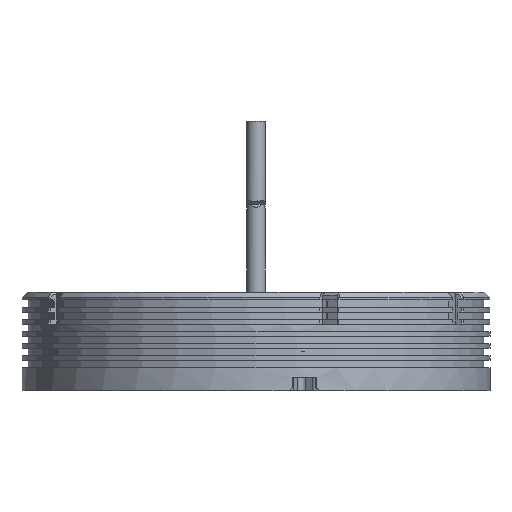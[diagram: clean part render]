
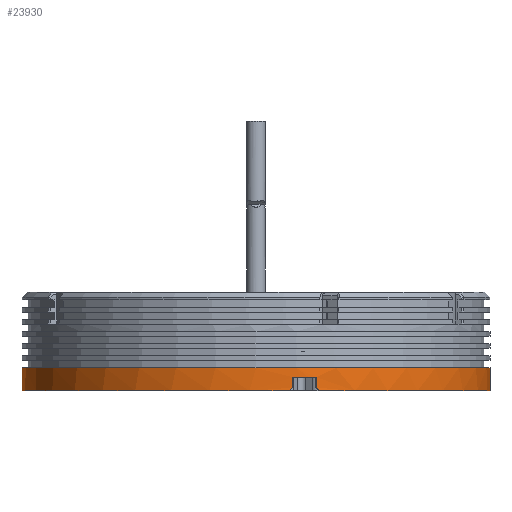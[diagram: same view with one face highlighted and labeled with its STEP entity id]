
A CAD part, front view. The second image highlights one B-rep face of the part: STEP entity #23930.
In plain terms, the highlighted cylindrical face has radius 68 mm (diameter 136 mm), a partial arc.
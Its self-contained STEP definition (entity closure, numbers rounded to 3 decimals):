
#113 = AXIS2_PLACEMENT_3D ( 'NONE', #1324, #8015, #800 ) ;
#361 = VECTOR ( 'NONE', #16664, 1000. ) ;
#634 = AXIS2_PLACEMENT_3D ( 'NONE', #10155, #5451, #1038 ) ;
#800 = DIRECTION ( 'NONE',  ( -1., 0., 0. ) ) ;
#1018 = ORIENTED_EDGE ( 'NONE', *, *, #20800, .T. ) ;
#1038 = DIRECTION ( 'NONE',  ( -1., 0., 0. ) ) ;
#1146 = CARTESIAN_POINT ( 'NONE',  ( 10.7, -67.153, 1. ) ) ;
#1324 = CARTESIAN_POINT ( 'NONE',  ( 0., 0., 6.7 ) ) ;
#1443 = LINE ( 'NONE', #18933, #361 ) ;
#1599 = CARTESIAN_POINT ( 'NONE',  ( 9.712, -67.303, 0. ) ) ;
#1802 = ORIENTED_EDGE ( 'NONE', *, *, #23161, .T. ) ;
#2140 = CARTESIAN_POINT ( 'NONE',  ( 9.712, -67.303, 0. ) ) ;
#2278 = CARTESIAN_POINT ( 'NONE',  ( 17.538, -65.699, 1. ) ) ;
#2831 = DIRECTION ( 'NONE',  ( -1., 0., 0. ) ) ;
#3021 = ORIENTED_EDGE ( 'NONE', *, *, #26055, .T. ) ;
#3086 = EDGE_LOOP ( 'NONE', ( #8550, #4437, #1018, #3888, #3021, #5428, #6607, #16175, #1802, #17868 ) ) ;
#3717 = CARTESIAN_POINT ( 'NONE',  ( 17.538, -65.699, 1. ) ) ;
#3888 = ORIENTED_EDGE ( 'NONE', *, *, #7565, .T. ) ;
#4308 = VECTOR ( 'NONE', #18925, 1000. ) ;
#4349 = AXIS2_PLACEMENT_3D ( 'NONE', #9565, #24786, #16385 ) ;
#4437 = ORIENTED_EDGE ( 'NONE', *, *, #16954, .T. ) ;
#5239 = CARTESIAN_POINT ( 'NONE',  ( -68., 0., 28.7 ) ) ;
#5428 = ORIENTED_EDGE ( 'NONE', *, *, #10069, .T. ) ;
#5451 = DIRECTION ( 'NONE',  ( 0., 0., 1. ) ) ;
#5783 = CARTESIAN_POINT ( 'NONE',  ( 68., 0., 0. ) ) ;
#6321 = EDGE_CURVE ( 'NONE', #23763, #6738, #7970, .T. ) ;
#6563 = CARTESIAN_POINT ( 'NONE',  ( 10.371, -67.205, 0.667 ) ) ;
#6607 = ORIENTED_EDGE ( 'NONE', *, *, #6321, .F. ) ;
#6738 = VERTEX_POINT ( 'NONE', #24755 ) ;
#7565 = EDGE_CURVE ( 'NONE', #26201, #19122, #27923, .T. ) ;
#7970 = CIRCLE ( 'NONE', #4349, 68. ) ;
#8015 = DIRECTION ( 'NONE',  ( 0., 0., -1. ) ) ;
#8048 = DIRECTION ( 'NONE',  ( 0., 0., 1. ) ) ;
#8392 = EDGE_CURVE ( 'NONE', #13112, #9982, #8698, .T. ) ;
#8550 = ORIENTED_EDGE ( 'NONE', *, *, #25885, .F. ) ;
#8698 = CIRCLE ( 'NONE', #18670, 68. ) ;
#9565 = CARTESIAN_POINT ( 'NONE',  ( 0., 0., 4. ) ) ;
#9982 = VERTEX_POINT ( 'NONE', #5783 ) ;
#10069 = EDGE_CURVE ( 'NONE', #13672, #6738, #18866, .T. ) ;
#10155 = CARTESIAN_POINT ( 'NONE',  ( 0., 0., 0. ) ) ;
#10264 = CARTESIAN_POINT ( 'NONE',  ( 17.538, -65.699, 28.7 ) ) ;
#11033 = CARTESIAN_POINT ( 'NONE',  ( 18.503, -65.434, 0. ) ) ;
#11698 =( BOUNDED_CURVE ( )  B_SPLINE_CURVE ( 3, ( #3717, #25618, #25475, #18923 ),
 .UNSPECIFIED., .F., .T. ) 
 B_SPLINE_CURVE_WITH_KNOTS ( ( 4, 4 ),
 ( 4.712, 4.727 ),
 .UNSPECIFIED. ) 
 CURVE ( )  GEOMETRIC_REPRESENTATION_ITEM ( )  RATIONAL_B_SPLINE_CURVE ( ( 1., 1., 1., 1. ) ) 
 REPRESENTATION_ITEM ( '' )  );
#12156 = AXIS2_PLACEMENT_3D ( 'NONE', #16293, #27535, #20701 ) ;
#12342 = VECTOR ( 'NONE', #8048, 1000. ) ;
#13112 = VERTEX_POINT ( 'NONE', #11033 ) ;
#13511 = DIRECTION ( 'NONE',  ( 0., 0., 1. ) ) ;
#13672 = VERTEX_POINT ( 'NONE', #1146 ) ;
#13800 = EDGE_CURVE ( 'NONE', #23763, #26008, #16794, .T. ) ;
#14379 = CARTESIAN_POINT ( 'NONE',  ( 68., 0., 6.7 ) ) ;
#16175 = ORIENTED_EDGE ( 'NONE', *, *, #13800, .T. ) ;
#16293 = CARTESIAN_POINT ( 'NONE',  ( 0., 0., 28.7 ) ) ;
#16385 = DIRECTION ( 'NONE',  ( -1., 0., 0. ) ) ;
#16472 = CIRCLE ( 'NONE', #113, 68. ) ;
#16664 = DIRECTION ( 'NONE',  ( 0., 0., -1. ) ) ;
#16794 = LINE ( 'NONE', #10264, #4308 ) ;
#16867 = VECTOR ( 'NONE', #26866, 1000. ) ;
#16954 = EDGE_CURVE ( 'NONE', #20583, #27852, #16472, .T. ) ;
#17774 = CARTESIAN_POINT ( 'NONE',  ( 0., 0., 0. ) ) ;
#17868 = ORIENTED_EDGE ( 'NONE', *, *, #8392, .T. ) ;
#18174 = LINE ( 'NONE', #5239, #16867 ) ;
#18427 = CARTESIAN_POINT ( 'NONE',  ( 17.538, -65.699, 4. ) ) ;
#18670 = AXIS2_PLACEMENT_3D ( 'NONE', #17774, #13511, #2831 ) ;
#18866 = LINE ( 'NONE', #27547, #12342 ) ;
#18923 = CARTESIAN_POINT ( 'NONE',  ( 18.503, -65.434, 0. ) ) ;
#18925 = DIRECTION ( 'NONE',  ( 0., 0., -1. ) ) ;
#18933 = CARTESIAN_POINT ( 'NONE',  ( 68., 0., 28.7 ) ) ;
#19122 = VERTEX_POINT ( 'NONE', #1599 ) ;
#20583 = VERTEX_POINT ( 'NONE', #14379 ) ;
#20701 = DIRECTION ( 'NONE',  ( -1., 0., 0. ) ) ;
#20800 = EDGE_CURVE ( 'NONE', #27852, #26201, #18174, .T. ) ;
#21133 = FACE_OUTER_BOUND ( 'NONE', #3086, .T. ) ;
#21765 = CARTESIAN_POINT ( 'NONE',  ( 10.042, -67.255, 0.333 ) ) ;
#22185 = CARTESIAN_POINT ( 'NONE',  ( 10.7, -67.153, 1. ) ) ;
#22426 =( BOUNDED_CURVE ( )  B_SPLINE_CURVE ( 3, ( #2140, #21765, #6563, #22185 ),
 .UNSPECIFIED., .F., .T. ) 
 B_SPLINE_CURVE_WITH_KNOTS ( ( 4, 4 ),
 ( 1.556, 1.571 ),
 .UNSPECIFIED. ) 
 CURVE ( )  GEOMETRIC_REPRESENTATION_ITEM ( )  RATIONAL_B_SPLINE_CURVE ( ( 1., 1., 1., 1. ) ) 
 REPRESENTATION_ITEM ( '' )  );
#23161 = EDGE_CURVE ( 'NONE', #26008, #13112, #11698, .T. ) ;
#23445 = CARTESIAN_POINT ( 'NONE',  ( -68., 0., 6.7 ) ) ;
#23763 = VERTEX_POINT ( 'NONE', #18427 ) ;
#23930 = ADVANCED_FACE ( 'NONE', ( #21133 ), #27403, .T. ) ;
#24755 = CARTESIAN_POINT ( 'NONE',  ( 10.7, -67.153, 4. ) ) ;
#24786 = DIRECTION ( 'NONE',  ( 0., 0., -1. ) ) ;
#25475 = CARTESIAN_POINT ( 'NONE',  ( 18.182, -65.525, 0.333 ) ) ;
#25618 = CARTESIAN_POINT ( 'NONE',  ( 17.86, -65.613, 0.667 ) ) ;
#25885 = EDGE_CURVE ( 'NONE', #20583, #9982, #1443, .T. ) ;
#26008 = VERTEX_POINT ( 'NONE', #2278 ) ;
#26055 = EDGE_CURVE ( 'NONE', #19122, #13672, #22426, .T. ) ;
#26201 = VERTEX_POINT ( 'NONE', #27022 ) ;
#26866 = DIRECTION ( 'NONE',  ( 0., 0., -1. ) ) ;
#27022 = CARTESIAN_POINT ( 'NONE',  ( -68., 0., 0. ) ) ;
#27403 = CYLINDRICAL_SURFACE ( 'NONE', #12156, 68. ) ;
#27535 = DIRECTION ( 'NONE',  ( 0., 0., -1. ) ) ;
#27547 = CARTESIAN_POINT ( 'NONE',  ( 10.7, -67.153, 28.7 ) ) ;
#27852 = VERTEX_POINT ( 'NONE', #23445 ) ;
#27923 = CIRCLE ( 'NONE', #634, 68. ) ;
